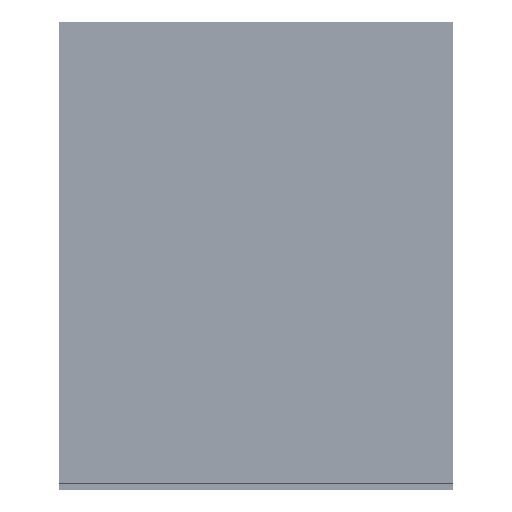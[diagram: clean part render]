
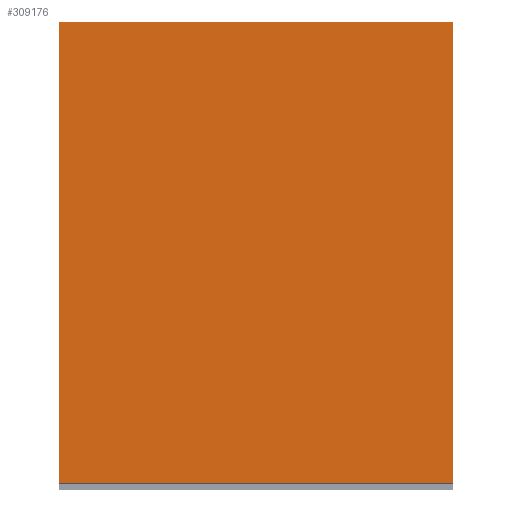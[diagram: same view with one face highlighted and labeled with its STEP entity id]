
A CAD part, left-side view. The second image highlights one B-rep face of the part: STEP entity #309176.
In plain terms, the highlighted planar face has unit normal (-1, 0, 0).
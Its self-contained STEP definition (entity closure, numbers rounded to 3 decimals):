
#308915=CARTESIAN_POINT('',(2422.339,-446.489,582.5));
#308916=VERTEX_POINT('',#308915);
#308923=CARTESIAN_POINT('',(2422.339,-446.696,582.293));
#308924=VERTEX_POINT('',#308923);
#308925=CARTESIAN_POINT('',(2422.339,-446.489,582.5));
#308926=DIRECTION('',(0.0,-0.707,-0.707));
#308927=VECTOR('',#308926,0.293);
#308928=LINE('',#308925,#308927);
#308929=EDGE_CURVE('',#308916,#308924,#308928,.T.);
#308946=CARTESIAN_POINT('',(2422.339,50.097,582.5));
#308947=VERTEX_POINT('',#308946);
#308954=CARTESIAN_POINT('',(2422.339,50.097,582.5));
#308955=DIRECTION('',(0.0,-1.0,0.0));
#308956=VECTOR('',#308955,496.586);
#308957=LINE('',#308954,#308956);
#308958=EDGE_CURVE('',#308947,#308916,#308957,.T.);
#308969=CARTESIAN_POINT('',(2422.339,-446.696,0.707));
#308970=VERTEX_POINT('',#308969);
#308971=CARTESIAN_POINT('',(2422.339,-446.696,582.293));
#308972=DIRECTION('',(0.0,0.0,-1.0));
#308973=VECTOR('',#308972,581.586);
#308974=LINE('',#308971,#308973);
#308975=EDGE_CURVE('',#308924,#308970,#308974,.T.);
#309001=CARTESIAN_POINT('',(2422.339,50.304,582.293));
#309002=VERTEX_POINT('',#309001);
#309009=CARTESIAN_POINT('',(2422.339,50.304,582.293));
#309010=DIRECTION('',(0.0,-0.707,0.707));
#309011=VECTOR('',#309010,0.293);
#309012=LINE('',#309009,#309011);
#309013=EDGE_CURVE('',#309002,#308947,#309012,.T.);
#309024=CARTESIAN_POINT('',(2422.339,-446.489,0.5));
#309025=VERTEX_POINT('',#309024);
#309026=CARTESIAN_POINT('',(2422.339,-446.696,0.707));
#309027=DIRECTION('',(0.0,0.707,-0.707));
#309028=VECTOR('',#309027,0.293);
#309029=LINE('',#309026,#309028);
#309030=EDGE_CURVE('',#308970,#309025,#309029,.T.);
#309056=CARTESIAN_POINT('',(2422.339,50.304,0.707));
#309057=VERTEX_POINT('',#309056);
#309064=CARTESIAN_POINT('',(2422.339,50.304,0.707));
#309065=DIRECTION('',(0.0,0.0,1.0));
#309066=VECTOR('',#309065,581.586);
#309067=LINE('',#309064,#309066);
#309068=EDGE_CURVE('',#309057,#309002,#309067,.T.);
#309079=CARTESIAN_POINT('',(2422.339,50.097,0.5));
#309080=VERTEX_POINT('',#309079);
#309081=CARTESIAN_POINT('',(2422.339,-446.489,0.5));
#309082=DIRECTION('',(0.0,1.0,0.0));
#309083=VECTOR('',#309082,496.586);
#309084=LINE('',#309081,#309083);
#309085=EDGE_CURVE('',#309025,#309080,#309084,.T.);
#309117=CARTESIAN_POINT('',(2422.339,50.097,0.5));
#309118=DIRECTION('',(0.0,0.707,0.707));
#309119=VECTOR('',#309118,0.293);
#309120=LINE('',#309117,#309119);
#309121=EDGE_CURVE('',#309080,#309057,#309120,.T.);
#309161=CARTESIAN_POINT('',(2422.339,50.804,0.));
#309162=DIRECTION('',(-1.0,0.0,0.0));
#309163=DIRECTION('',(0.0,-1.0,0.0));
#309164=AXIS2_PLACEMENT_3D('',#309161,#309162,#309163);
#309165=PLANE('',#309164);
#309166=ORIENTED_EDGE('',*,*,#308929,.F.);
#309167=ORIENTED_EDGE('',*,*,#308958,.F.);
#309168=ORIENTED_EDGE('',*,*,#309013,.F.);
#309169=ORIENTED_EDGE('',*,*,#309068,.F.);
#309170=ORIENTED_EDGE('',*,*,#309121,.F.);
#309171=ORIENTED_EDGE('',*,*,#309085,.F.);
#309172=ORIENTED_EDGE('',*,*,#309030,.F.);
#309173=ORIENTED_EDGE('',*,*,#308975,.F.);
#309174=EDGE_LOOP('',(#309166,#309167,#309168,#309169,#309170,#309171,#309172,#309173));
#309175=FACE_OUTER_BOUND('',#309174,.T.);
#309176=ADVANCED_FACE('',(#309175),#309165,.T.);
